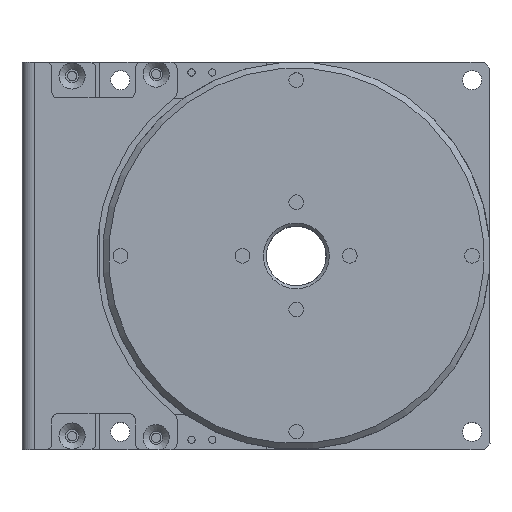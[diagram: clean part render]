
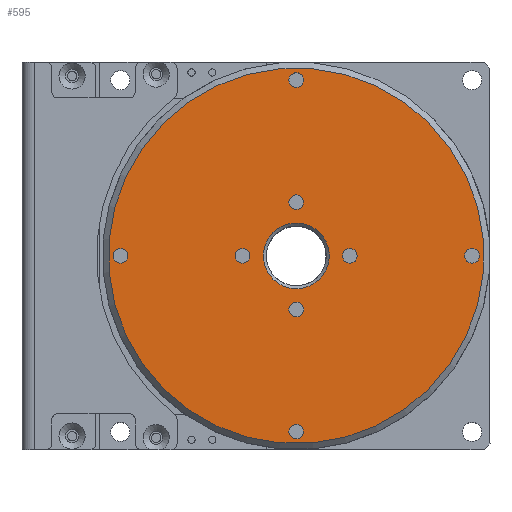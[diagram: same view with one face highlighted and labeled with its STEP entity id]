
A CAD part, top view. The second image highlights one B-rep face of the part: STEP entity #595.
In plain terms, the highlighted planar face has unit normal (0, 0, 1).
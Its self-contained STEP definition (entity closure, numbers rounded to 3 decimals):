
#595 = ADVANCED_FACE( '', ( #1289, #1290, #1291, #1292, #1293, #1294, #1295, #1296, #1297, #1298 ), #1299, .T. );
#1289 = FACE_OUTER_BOUND( '', #2056, .T. );
#1290 = FACE_BOUND( '', #2057, .T. );
#1291 = FACE_BOUND( '', #2058, .T. );
#1292 = FACE_BOUND( '', #2059, .T. );
#1293 = FACE_BOUND( '', #2060, .T. );
#1294 = FACE_BOUND( '', #2061, .T. );
#1295 = FACE_BOUND( '', #2062, .T. );
#1296 = FACE_BOUND( '', #2063, .T. );
#1297 = FACE_BOUND( '', #2064, .T. );
#1298 = FACE_BOUND( '', #2065, .T. );
#1299 = PLANE( '', #2066 );
#2056 = EDGE_LOOP( '', ( #3631 ) );
#2057 = EDGE_LOOP( '', ( #3632 ) );
#2058 = EDGE_LOOP( '', ( #3633 ) );
#2059 = EDGE_LOOP( '', ( #3634 ) );
#2060 = EDGE_LOOP( '', ( #3635 ) );
#2061 = EDGE_LOOP( '', ( #3636 ) );
#2062 = EDGE_LOOP( '', ( #3637 ) );
#2063 = EDGE_LOOP( '', ( #3638 ) );
#2064 = EDGE_LOOP( '', ( #3639 ) );
#2065 = EDGE_LOOP( '', ( #3640 ) );
#2066 = AXIS2_PLACEMENT_3D( '', #3641, #3642, #3643 );
#3631 = ORIENTED_EDGE( '', *, *, #4117, .F. );
#3632 = ORIENTED_EDGE( '', *, *, #4307, .T. );
#3633 = ORIENTED_EDGE( '', *, *, #4246, .T. );
#3634 = ORIENTED_EDGE( '', *, *, #3980, .T. );
#3635 = ORIENTED_EDGE( '', *, *, #4323, .T. );
#3636 = ORIENTED_EDGE( '', *, *, #4203, .T. );
#3637 = ORIENTED_EDGE( '', *, *, #4447, .T. );
#3638 = ORIENTED_EDGE( '', *, *, #4568, .T. );
#3639 = ORIENTED_EDGE( '', *, *, #4317, .T. );
#3640 = ORIENTED_EDGE( '', *, *, #4558, .T. );
#3641 = CARTESIAN_POINT( '', ( 141.631, 71.848, 42.764 ) );
#3642 = DIRECTION( '', ( 0., 0., 1. ) );
#3643 = DIRECTION( '', ( 0.707, -0.707, 0. ) );
#3980 = EDGE_CURVE( '', #4645, #4645, #4646, .T. );
#4117 = EDGE_CURVE( '', #4882, #4882, #4883, .T. );
#4203 = EDGE_CURVE( '', #5017, #5017, #5018, .T. );
#4246 = EDGE_CURVE( '', #5085, #5085, #5086, .T. );
#4307 = EDGE_CURVE( '', #5182, #5182, #5183, .T. );
#4317 = EDGE_CURVE( '', #5197, #5197, #5198, .T. );
#4323 = EDGE_CURVE( '', #5207, #5207, #5208, .T. );
#4447 = EDGE_CURVE( '', #5396, #5396, #5397, .T. );
#4558 = EDGE_CURVE( '', #5531, #5531, #5532, .T. );
#4568 = EDGE_CURVE( '', #5543, #5543, #5544, .T. );
#4645 = VERTEX_POINT( '', #5631 );
#4646 = CIRCLE( '', #5632, 1.23 );
#4882 = VERTEX_POINT( '', #5936 );
#4883 = CIRCLE( '', #5937, 31.5 );
#5017 = VERTEX_POINT( '', #6116 );
#5018 = CIRCLE( '', #6117, 1.23 );
#5085 = VERTEX_POINT( '', #6201 );
#5086 = CIRCLE( '', #6202, 1.23 );
#5182 = VERTEX_POINT( '', #6333 );
#5183 = CIRCLE( '', #6334, 5.522 );
#5197 = VERTEX_POINT( '', #6351 );
#5198 = CIRCLE( '', #6352, 1.23 );
#5207 = VERTEX_POINT( '', #6361 );
#5208 = CIRCLE( '', #6362, 1.23 );
#5396 = VERTEX_POINT( '', #6592 );
#5397 = CIRCLE( '', #6593, 1.23 );
#5531 = VERTEX_POINT( '', #6772 );
#5532 = CIRCLE( '', #6773, 1.23 );
#5543 = VERTEX_POINT( '', #6785 );
#5544 = CIRCLE( '', #6786, 1.23 );
#5631 = CARTESIAN_POINT( '', ( 163.036, 41.446, 42.764 ) );
#5632 = AXIS2_PLACEMENT_3D( '', #6879, #6880, #6881 );
#5936 = CARTESIAN_POINT( '', ( 186.179, 71.848, 42.764 ) );
#5937 = AXIS2_PLACEMENT_3D( '', #7063, #7064, #7065 );
#6116 = CARTESIAN_POINT( '', ( 155.777, 50.443, 42.764 ) );
#6117 = AXIS2_PLACEMENT_3D( '', #7168, #7169, #7170 );
#6201 = CARTESIAN_POINT( '', ( 163.036, 20.952, 42.764 ) );
#6202 = AXIS2_PLACEMENT_3D( '', #7233, #7234, #7235 );
#6333 = CARTESIAN_POINT( '', ( 160., 45.669, 42.764 ) );
#6334 = AXIS2_PLACEMENT_3D( '', #7309, #7310, #7311 );
#6351 = CARTESIAN_POINT( '', ( 172.033, 48.704, 42.764 ) );
#6352 = AXIS2_PLACEMENT_3D( '', #7321, #7322, #7323 );
#6361 = CARTESIAN_POINT( '', ( 135.284, 50.443, 42.764 ) );
#6362 = AXIS2_PLACEMENT_3D( '', #7333, #7334, #7335 );
#6592 = CARTESIAN_POINT( '', ( 164.775, 78.195, 42.764 ) );
#6593 = AXIS2_PLACEMENT_3D( '', #7510, #7511, #7512 );
#6772 = CARTESIAN_POINT( '', ( 192.527, 48.704, 42.764 ) );
#6773 = AXIS2_PLACEMENT_3D( '', #7618, #7619, #7620 );
#6785 = CARTESIAN_POINT( '', ( 164.775, 57.702, 42.764 ) );
#6786 = AXIS2_PLACEMENT_3D( '', #7631, #7632, #7633 );
#6879 = CARTESIAN_POINT( '', ( 163.905, 40.576, 42.764 ) );
#6880 = DIRECTION( '', ( 0., 0., -1. ) );
#6881 = DIRECTION( '', ( -0.707, 0.707, 0. ) );
#7063 = CARTESIAN_POINT( '', ( 163.905, 49.574, 42.764 ) );
#7064 = DIRECTION( '', ( 0., 0., -1. ) );
#7065 = DIRECTION( '', ( 0.707, 0.707, 0. ) );
#7168 = CARTESIAN_POINT( '', ( 154.908, 49.574, 42.764 ) );
#7169 = DIRECTION( '', ( 0., 0., -1. ) );
#7170 = DIRECTION( '', ( 0.707, 0.707, 0. ) );
#7233 = CARTESIAN_POINT( '', ( 163.905, 20.083, 42.764 ) );
#7234 = DIRECTION( '', ( 0., 0., -1. ) );
#7235 = DIRECTION( '', ( -0.707, 0.707, 0. ) );
#7309 = CARTESIAN_POINT( '', ( 163.905, 49.574, 42.764 ) );
#7310 = DIRECTION( '', ( 0., 0., -1. ) );
#7311 = DIRECTION( '', ( -0.707, -0.707, 0. ) );
#7321 = CARTESIAN_POINT( '', ( 172.903, 49.574, 42.764 ) );
#7322 = DIRECTION( '', ( 0., 0., -1. ) );
#7323 = DIRECTION( '', ( -0.707, -0.707, 0. ) );
#7333 = CARTESIAN_POINT( '', ( 134.414, 49.574, 42.764 ) );
#7334 = DIRECTION( '', ( 0., 0., -1. ) );
#7335 = DIRECTION( '', ( 0.707, 0.707, 0. ) );
#7510 = CARTESIAN_POINT( '', ( 163.905, 79.065, 42.764 ) );
#7511 = DIRECTION( '', ( 0., 0., -1. ) );
#7512 = DIRECTION( '', ( 0.707, -0.707, 0. ) );
#7618 = CARTESIAN_POINT( '', ( 193.396, 49.574, 42.764 ) );
#7619 = DIRECTION( '', ( 0., 0., -1. ) );
#7620 = DIRECTION( '', ( -0.707, -0.707, 0. ) );
#7631 = CARTESIAN_POINT( '', ( 163.905, 58.571, 42.764 ) );
#7632 = DIRECTION( '', ( 0., 0., -1. ) );
#7633 = DIRECTION( '', ( 0.707, -0.707, 0. ) );
